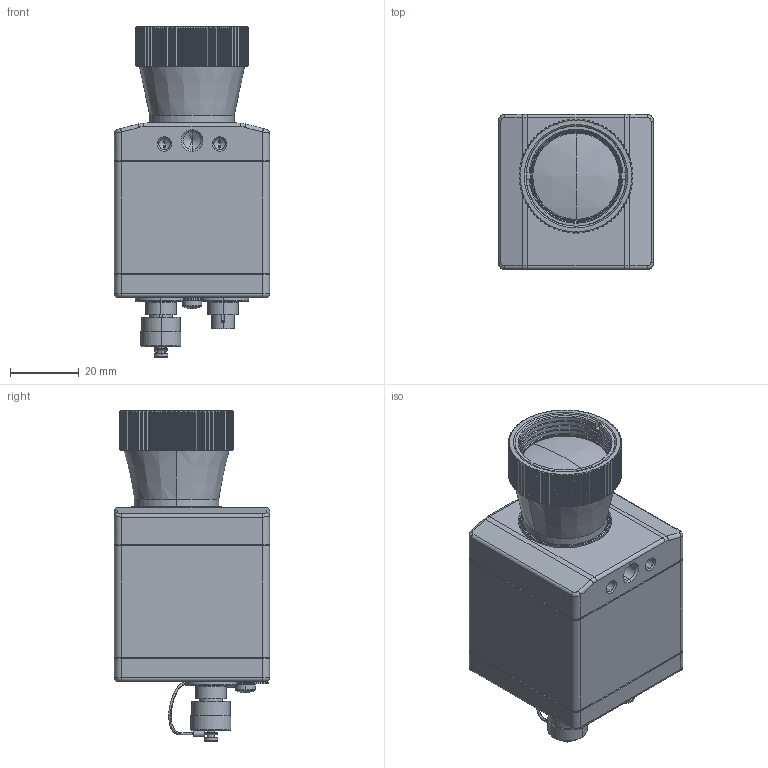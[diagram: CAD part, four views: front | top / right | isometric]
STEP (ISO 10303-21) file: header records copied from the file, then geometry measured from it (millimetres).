
FILE_DESCRIPTION (( 'STEP AP214' ), '1' );
FILE_NAME ('Pi-400i-O13.STEP', '2019-09-30T07:48:15', ( 'admin' ), ( '' ), 'SwSTEP 2.0', 'SolidWorks 2017', '' );
FILE_SCHEMA (( 'AUTOMOTIVE_DESIGN' ));
Length unit declared in the file: millimetre
Products named in the file (30): 62205 Sechskantmutter DIN 439 A2 M2,5_PreviewCfg; 63026 O-Ring 26x1_O-Ring 20 x 1; 1P101 Frontplatte-PI2S; 9P119-X Rückwand PI-2S; 52067-25 Schaltlitze 0,14 braun; 52069-0003 Schaltlitze 0,14 gelb; 52066-25 Schaltlitze 0,14 gr黱; 52068-25 Schaltlitze 0,14 weiß; 52065-25 Schaltlitze 0,14 grau; 9P471 Objektivgruppe F28-382p17; 52061-0003 Schaltlitze 0,14 schwarz; 1P477 Linse3-L28-384-GE-p17痠; 52060-25 Schaltlitze 0,14 rot; 63026 O-Ring 26x1; 51099 Schutzkappe-712 FS_F〉 Pi; 63125 O-Ring 25,5x1,5; 54250 Temperaturaufkleber; 63023 O-Ring 23x1_O-Ring 23 x 1; 61301 Linsenschraube DIN 7985 VZ M3x5_Linsenschraube KS DIN 7985 VZ M3x5; 1P471 Schraubring F28-382p17; 63163 O-Ring NBR 50 x 1,5; 1P472 Objektivtubus F28-382p17; 51095 Flanschstecker 712; 5-polig; 1P110-2 Objektivhaltering G2; 51093 Flanschstecker 712; 5-1polig; 1P005 Hülsenmutter; 1P023 Heckplatte-steckbar; 1P102 Vierkantrohr-PI2_1P102-1; 9P425-X Chassis PI-400i; Pi-400i-O13
Assembly tree (36 placements, depth 3):
  Pi-400i-O13
    9P119-X Rückwand PI-2S
      1P023 Heckplatte-steckbar
      51093 Flanschstecker 712; 5-1polig
      51095 Flanschstecker 712; 5-polig
      63163 O-Ring NBR 50 x 1,5
      61301 Linsenschraube DIN 7985 VZ M3x5_Linsenschraube KS DIN 7985 VZ M3x5
      54250 Temperaturaufkleber
      51099 Schutzkappe-712 FS_F〉 Pi
      52060-25 Schaltlitze 0,14 rot
      52061-0003 Schaltlitze 0,14 schwarz
      52065-25 Schaltlitze 0,14 grau
      52068-25 Schaltlitze 0,14 weiß  x2
      52066-25 Schaltlitze 0,14 gr黱  x2
      52069-0003 Schaltlitze 0,14 gelb
      52067-25 Schaltlitze 0,14 braun
    9P425-X Chassis PI-400i
      1P101 Frontplatte-PI2S
      63026 O-Ring 26x1_O-Ring 20 x 1
      63163 O-Ring NBR 50 x 1,5
      62205 Sechskantmutter DIN 439 A2 M2,5_PreviewCfg  x2
    1P102 Vierkantrohr-PI2_1P102-1
    1P005 Hülsenmutter  x4
    1P110-2 Objektivhaltering G2
    9P471 Objektivgruppe F28-382p17
      1P472 Objektivtubus F28-382p17
      1P471 Schraubring F28-382p17
      63023 O-Ring 23x1_O-Ring 23 x 1
      63125 O-Ring 25,5x1,5
      63026 O-Ring 26x1
      1P477 Linse3-L28-384-GE-p17痠
Bounding box: 45 x 45 x 95.73 mm (x, y, z)
Volume: 43043.9 mm3; surface area: 51719.7 mm2
Topology: 33 solids, 44 shells, 2175 faces, 5495 edges, 3437 vertices
Faces by surface type: cylinder 935, plane 528, cone 476, torus 126, bspline 96, sphere 14
Entity records: 71823 total; most frequent: CARTESIAN_POINT 21005, DIRECTION 10082, ORIENTED_EDGE 9924, EDGE_CURVE 4971, AXIS2_PLACEMENT_3D 4038, VERTEX_POINT 3158, EDGE_LOOP 2120, CIRCLE 2114
